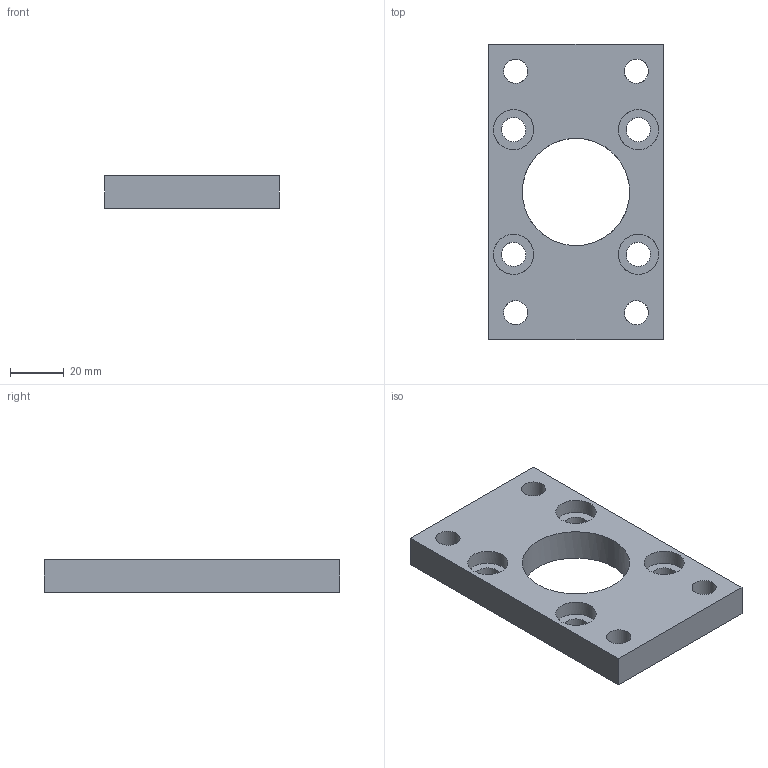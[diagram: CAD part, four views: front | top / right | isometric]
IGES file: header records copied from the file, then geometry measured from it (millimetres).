
Global section: file name: 1325_050_03F; native system: Autodesk Inventor 2014; preprocessor: unknown; author: A. Manieri; organization: Pneumax S.p.A.; date: 20161007.115411; units: millimetre
Bounding box: 65 x 110 x 12 mm (x, y, z)
Volume: 62100.2 mm3; surface area: 19612.3 mm2
Topology: 1 solids, 1 shells, 23 faces, 59 edges, 42 vertices
Faces by surface type: bspline 23
